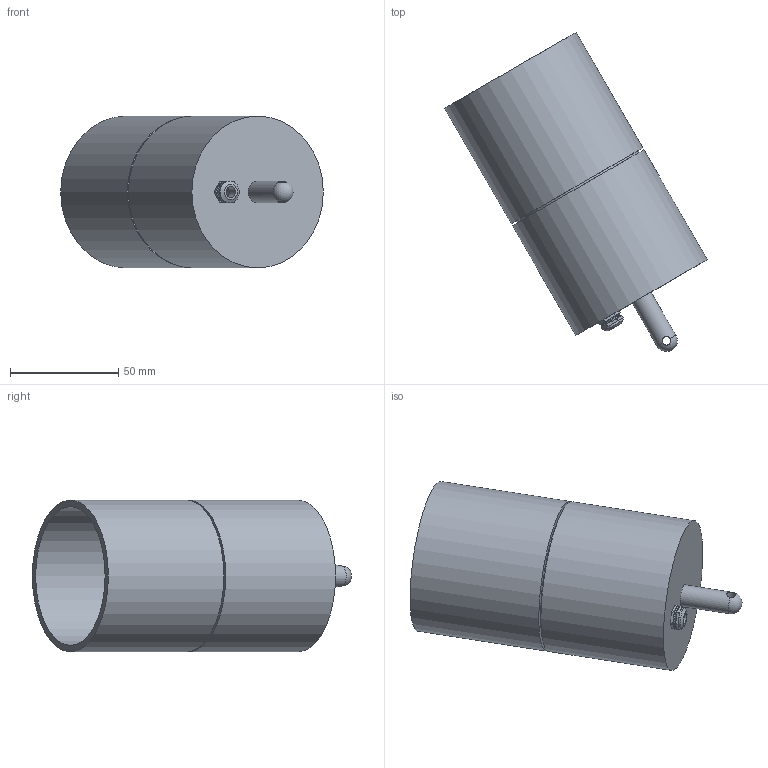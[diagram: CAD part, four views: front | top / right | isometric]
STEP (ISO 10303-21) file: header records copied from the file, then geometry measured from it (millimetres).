
FILE_DESCRIPTION(/* description */ (''),/* implementation_level */ '2;1');
FILE_NAME(/* name */ 'C:/Elena/ILM/02 3D/Corallo/Pubblico/Corallo pendant.step',/* time_stamp */ '2020-06-08T16:07:15+02:00',/* author */ (''),/* organization */ (''),/* preprocessor_version */ 'ST-DEVELOPER v18.1',/* originating_system */ 'Autodesk Translation Framework v9.3.0.1241',/* authorisation */ '');
FILE_SCHEMA (('AUTOMOTIVE_DESIGN { 1 0 10303 214 3 1 1 }'));
Length unit declared in the file: millimetre
Products named in the file (1): (Unsaved)
Bounding box: 121.12 x 147.19 x 70 mm (x, y, z)
Volume: 301697.4 mm3; surface area: 55645.2 mm2
Topology: 5 solids, 7 shells, 85 faces, 174 edges, 110 vertices
Faces by surface type: plane 47, cylinder 29, cone 6, torus 2, sphere 1
Full cylindrical faces by diameter (mm): 3 x2, 4 x1, 5 x1, 8.6 x1, 10 x3, 10.127 x1, 50.6 x1, 56 x1, 61 x1, 64 x1, 65 x2, 70 x2
Entity records: 2352 total; most frequent: DIRECTION 427, CARTESIAN_POINT 409, ORIENTED_EDGE 346, EDGE_CURVE 173, AXIS2_PLACEMENT_3D 172, VERTEX_POINT 110, EDGE_LOOP 99, CIRCLE 86
